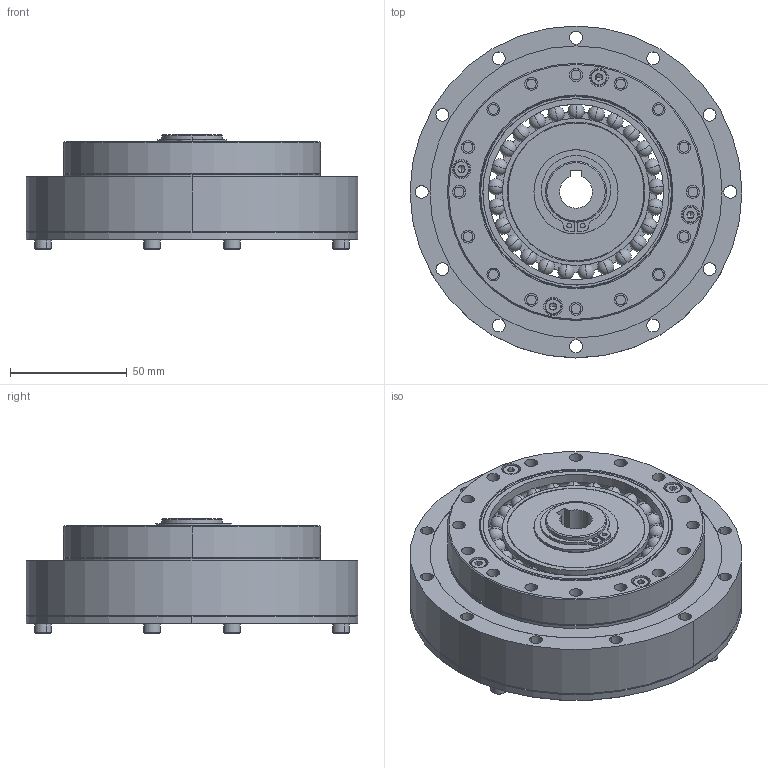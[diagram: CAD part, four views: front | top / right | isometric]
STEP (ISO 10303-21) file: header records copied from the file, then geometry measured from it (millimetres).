
FILE_DESCRIPTION (( 'STEP AP203' ), '1' );
FILE_NAME ('BHS-32-XXX-U-¢ò.STEP', '2019-01-15T05:38:26', ( 'User' ), ( 'China' ), 'SwSTEP 2.0', 'SolidWorks 2015', '' );
FILE_SCHEMA (( 'CONFIG_CONTROL_DESIGN' ));
Length unit declared in the file: millimetre
Products named in the file (1): BHS-32-XXX-U-ｊ
Bounding box: 142 x 142 x 49 mm (x, y, z)
Surface area: 96784.9 mm2 (no closed solid volume)
Topology: 0 solids, 53 shells, 352 faces, 1059 edges, 719 vertices
Faces by surface type: cylinder 153, plane 91, sphere 50, cone 46, torus 10, bspline 2
Entity records: 11107 total; most frequent: DIRECTION 2121, CARTESIAN_POINT 1953, ORIENTED_EDGE 1539, EDGE_CURVE 918, AXIS2_PLACEMENT_3D 860, VERTEX_POINT 644, CIRCLE 509, EDGE_LOOP 463
